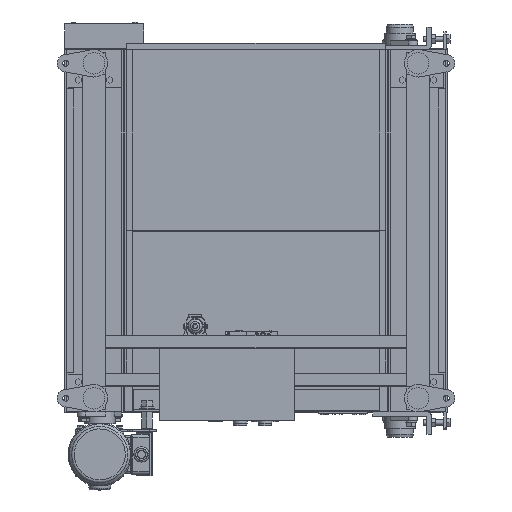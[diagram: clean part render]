
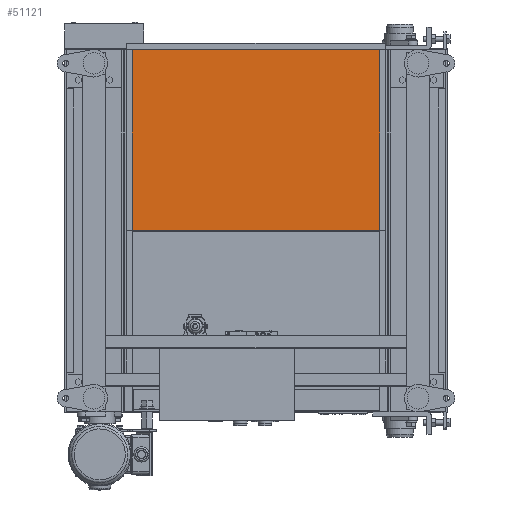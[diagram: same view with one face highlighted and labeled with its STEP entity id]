
A CAD part, front view. The second image highlights one B-rep face of the part: STEP entity #51121.
In plain terms, the highlighted planar face has unit normal (0, -1, 0).
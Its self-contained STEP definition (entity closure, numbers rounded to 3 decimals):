
#5677 = CARTESIAN_POINT ( 'NONE',  ( 137.5, -165., 0. ) ) ;
#6077 = VERTEX_POINT ( 'NONE', #90210 ) ;
#6654 = DIRECTION ( 'NONE',  ( 0., 0., 1. ) ) ;
#22588 = LINE ( 'NONE', #28476, #86167 ) ;
#22781 = CARTESIAN_POINT ( 'NONE',  ( 137.5, -165., 403.2 ) ) ;
#28476 = CARTESIAN_POINT ( 'NONE',  ( 137.5, -165., 0. ) ) ;
#31058 = EDGE_CURVE ( 'NONE', #133542, #50804, #119400, .T. ) ;
#39904 = VERTEX_POINT ( 'NONE', #22781 ) ;
#43764 = EDGE_LOOP ( 'NONE', ( #129918, #49035, #100383, #108021 ) ) ;
#49035 = ORIENTED_EDGE ( 'NONE', *, *, #60378, .F. ) ;
#49830 = CARTESIAN_POINT ( 'NONE',  ( 712.5, -165., 0. ) ) ;
#50804 = VERTEX_POINT ( 'NONE', #49830 ) ;
#51121 = ADVANCED_FACE ( 'NONE', ( #104176 ), #133426, .F. ) ;
#60378 = EDGE_CURVE ( 'NONE', #50804, #6077, #22588, .T. ) ;
#64984 = DIRECTION ( 'NONE',  ( -1., 0., 0. ) ) ;
#68222 = CARTESIAN_POINT ( 'NONE',  ( 712.5, -165., 403.2 ) ) ;
#73497 = CARTESIAN_POINT ( 'NONE',  ( 137.5, -165., 403.2 ) ) ;
#83646 = DIRECTION ( 'NONE',  ( 0., 0., -1. ) ) ;
#86167 = VECTOR ( 'NONE', #64984, 1000. ) ;
#90210 = CARTESIAN_POINT ( 'NONE',  ( 137.5, -165., 0. ) ) ;
#93573 = CARTESIAN_POINT ( 'NONE',  ( 712.5, -165., 0. ) ) ;
#100383 = ORIENTED_EDGE ( 'NONE', *, *, #31058, .F. ) ;
#104176 = FACE_OUTER_BOUND ( 'NONE', #43764, .T. ) ;
#105093 = VECTOR ( 'NONE', #83646, 1000. ) ;
#108021 = ORIENTED_EDGE ( 'NONE', *, *, #136363, .F. ) ;
#110306 = LINE ( 'NONE', #5677, #140351 ) ;
#119143 = DIRECTION ( 'NONE',  ( 1., 0., 0. ) ) ;
#119400 = LINE ( 'NONE', #93573, #105093 ) ;
#123513 = DIRECTION ( 'NONE',  ( 0., 0., 1. ) ) ;
#124487 = CARTESIAN_POINT ( 'NONE',  ( 425., -165., 402. ) ) ;
#124686 = EDGE_CURVE ( 'NONE', #6077, #39904, #110306, .T. ) ;
#129918 = ORIENTED_EDGE ( 'NONE', *, *, #124686, .F. ) ;
#133426 = PLANE ( 'NONE',  #144492 ) ;
#133542 = VERTEX_POINT ( 'NONE', #68222 ) ;
#134503 = VECTOR ( 'NONE', #119143, 1000. ) ;
#134844 = DIRECTION ( 'NONE',  ( 0., 1., 0. ) ) ;
#136363 = EDGE_CURVE ( 'NONE', #39904, #133542, #139913, .T. ) ;
#139913 = LINE ( 'NONE', #73497, #134503 ) ;
#140351 = VECTOR ( 'NONE', #6654, 1000. ) ;
#144492 = AXIS2_PLACEMENT_3D ( 'NONE', #124487, #134844, #123513 ) ;
